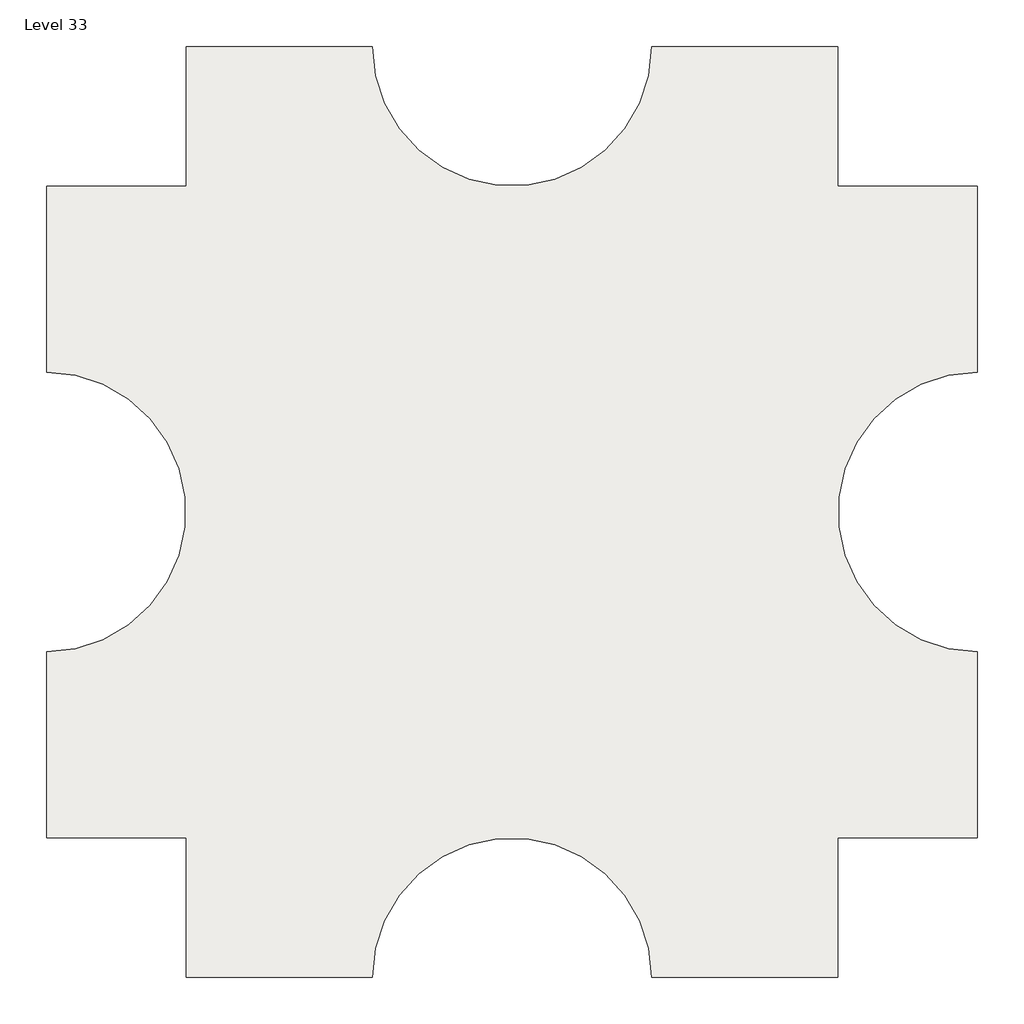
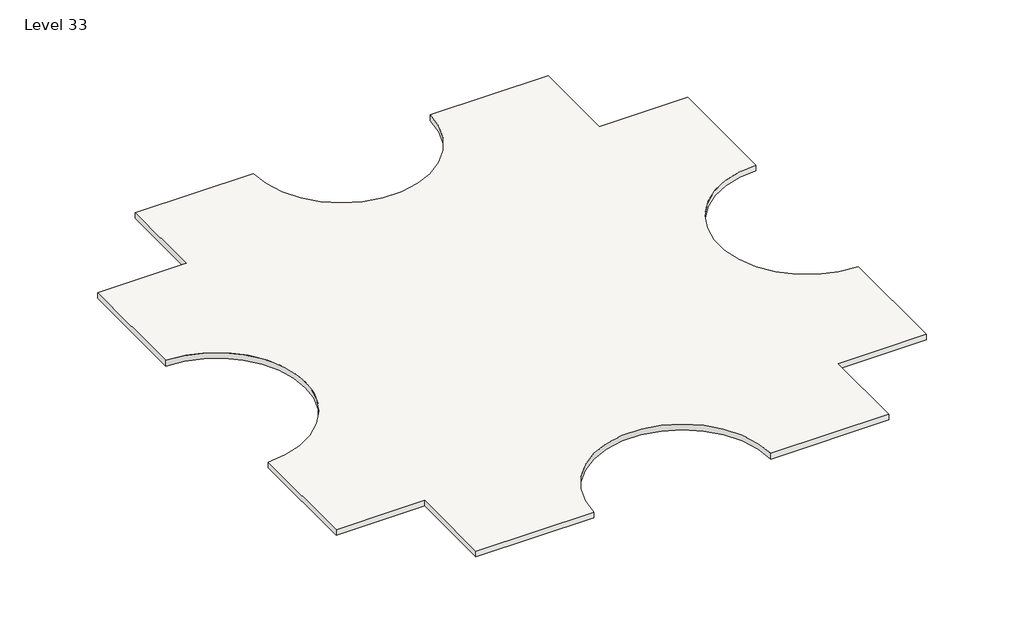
# One storey: 2 slabs.
"""IFC4 building model written with IfcOpenShell, lengths in millimetres."""

import ifcopenshell
import ifcopenshell.guid

model = None  # the IFC model being written
_history = None  # IfcOwnerHistory: only IFC2X3 demands one
_inside = {}  # id of a spatial element -> (the spatial element, [elements in it])
_under = {}  # id of a project, library or spatial element -> (it, [spatial elements below it])
_declared = {}  # id of a project -> (the project, [libraries it declares])
_typed = {}  # id of a type object -> (the type object, [elements of that type])
_made_of = {}  # id of a material, layer set ... -> (it, [elements and type objects made of it])


def new_model(schema):
    """Start an empty IFC model of exactly this schema.

    Asked for "IFC4X3", IfcOpenShell would pick the latest addendum, in which some entities
    have other attributes; the version numbers below select the first issue.
    IFC2X3 requires an IfcOwnerHistory on every rooted entity: one is made here for all.
    """
    global model, _history
    if schema == "IFC4X3":
        model = ifcopenshell.file(schema_version=(4, 3, 0, 0))
    else:
        model = ifcopenshell.file(schema=schema)
    _inside.clear()
    _under.clear()
    _declared.clear()
    _typed.clear()
    _made_of.clear()
    _history = None
    if model.schema == "IFC2X3":
        org = make("IfcOrganization", Name="unknown")
        user = make(
            "IfcPersonAndOrganization",
            ThePerson=make("IfcPerson", FamilyName="unknown"),
            TheOrganization=org,
        )
        app = make(
            "IfcApplication",
            ApplicationDeveloper=org,
            Version="unknown",
            ApplicationFullName="unknown",
            ApplicationIdentifier="unknown",
        )
        _history = make(
            "IfcOwnerHistory",
            OwningUser=user,
            OwningApplication=app,
            ChangeAction="ADDED",
            CreationDate=0,
        )
    return model


def make(cls, **values):
    """One entity of the class cls with the attributes given. An attribute that is None is left unset."""
    return model.create_entity(
        cls, **{name: value for name, value in values.items() if value is not None}
    )


def rooted(cls, **values):
    """An entity with a GlobalId (a new one), such as an element, a storey or a relation."""
    return make(cls, GlobalId=ifcopenshell.guid.new(), OwnerHistory=_history, **values)


def si_unit(unit_type, name, prefix=None):
    """IfcSIUnit, for example si_unit("LENGTHUNIT", "METRE", prefix="MILLI")."""
    return make("IfcSIUnit", UnitType=unit_type, Prefix=prefix, Name=name)


def assignment(units):
    """IfcUnitAssignment: the units of a project."""
    return None if units is None else make("IfcUnitAssignment", Units=units)


def point(xyz):
    """IfcCartesianPoint."""
    return None if xyz is None else make("IfcCartesianPoint", Coordinates=xyz)


def direction(xyz):
    """IfcDirection."""
    return None if xyz is None else make("IfcDirection", DirectionRatios=xyz)


def frame(location, z_axis=None, x_axis=None):
    """IfcAxis2Placement3D, a coordinate frame: its origin and axes. An axis left out is left unset."""
    return make(
        "IfcAxis2Placement3D",
        Location=point(location),
        Axis=direction(z_axis),
        RefDirection=direction(x_axis),
    )


def frame_2d(location, x_axis=None):
    """IfcAxis2Placement2D, a coordinate frame in the plane: its origin and x axis."""
    return make(
        "IfcAxis2Placement2D", Location=point(location), RefDirection=direction(x_axis)
    )


def origin():
    """The frame at (0, 0, 0) with its axes left unset."""
    return frame((0.0, 0.0, 0.0))


def place(relative_to, where):
    """IfcLocalPlacement: puts the frame where relative to a parent placement (None: the world)."""
    return make(
        "IfcLocalPlacement", PlacementRelTo=relative_to, RelativePlacement=where
    )


def context(
    kind, dimensions, precision=None, world=None, true_north=None, identifier=None
):
    """IfcGeometricRepresentationContext, for example the 3D "Model" context."""
    return make(
        "IfcGeometricRepresentationContext",
        ContextIdentifier=identifier,
        ContextType=kind,
        CoordinateSpaceDimension=dimensions,
        Precision=precision,
        WorldCoordinateSystem=world,
        TrueNorth=true_north,
    )


def project(units=None, contexts=None):
    """IfcProject with its units and contexts."""
    return rooted(
        "IfcProject",
        Name="project",
        RepresentationContexts=contexts,
        UnitsInContext=assignment(units),
    )


def spatial(cls, under=None, at=None, **own):
    """A site, building, storey or space (cls), placed at a placement, below another one or the project."""
    s = rooted(cls, ObjectPlacement=at, **own)
    if under is not None:
        _under.setdefault(under.id(), (under, []))[1].append(s)
    return s


def polyline(points):
    """IfcPolyline through the points."""
    return make("IfcPolyline", Points=[point(p) for p in points])


def circle_curve(where, radius):
    """IfcCircle in the frame where."""
    return make("IfcCircle", Position=where, Radius=radius)


def trimmed(basis, trim1, trim2, sense, master):
    """IfcTrimmedCurve: the piece of a basis curve between two trims."""
    return make(
        "IfcTrimmedCurve",
        BasisCurve=basis,
        Trim1=trim1,
        Trim2=trim2,
        SenseAgreement=sense,
        MasterRepresentation=master,
    )


def segment(curve, same_sense, transition):
    """IfcCompositeCurveSegment."""
    return make(
        "IfcCompositeCurveSegment",
        Transition=transition,
        SameSense=same_sense,
        ParentCurve=curve,
    )


def composite_curve(segments, self_intersect=None):
    """IfcCompositeCurve: segments joined end to end."""
    return make("IfcCompositeCurve", Segments=segments, SelfIntersect=self_intersect)


def outline(outer, holes=None, kind="AREA"):
    """IfcArbitraryClosedProfileDef: a profile drawn as a closed curve; with holes, ...WithVoids."""
    if holes is None:
        return make("IfcArbitraryClosedProfileDef", ProfileType=kind, OuterCurve=outer)
    return make(
        "IfcArbitraryProfileDefWithVoids",
        ProfileType=kind,
        OuterCurve=outer,
        InnerCurves=holes,
    )


def extrude(swept, where, along, depth):
    """IfcExtrudedAreaSolid: the profile swept, set in the frame where, extruded along a direction by depth."""
    return make(
        "IfcExtrudedAreaSolid",
        SweptArea=swept,
        Position=where,
        ExtrudedDirection=direction(along),
        Depth=depth,
    )


def shape(context_of_items, identifier, shape_type, items):
    """IfcShapeRepresentation: the items that make up one representation, for example the "Body"."""
    return make(
        "IfcShapeRepresentation",
        ContextOfItems=context_of_items,
        RepresentationIdentifier=identifier,
        RepresentationType=shape_type,
        Items=items,
    )


def made_of(thing, what):
    """Note that an element or type object is made of a material, layer set ...; save() writes the relation."""
    if what is not None:
        _made_of.setdefault(what.id(), (what, []))[1].append(thing)
    return thing


def element(
    cls,
    number,
    at=None,
    inside=None,
    cuts=None,
    type_object=None,
    material=None,
    context=None,
    identifier="Body",
    shape_type=None,
    held_by="IfcProductDefinitionShape",
    body=None,
    shapes=None,
    **own,
):
    """One element of the class cls, such as IfcWall. Its Tag is "e" and its number.

    at: its placement. inside: the storey or other place that contains it. cuts: it is an
    opening in that element (IfcRelVoidsElement). A single representation is given by context,
    identifier, shape_type and body (its items); several are given by shapes. held_by: the class
    of the entity that holds the representations. save() writes the other relations.
    """
    e = rooted(cls, Tag="e%d" % number, ObjectPlacement=at, **own)
    if body is not None:
        shapes = [shape(context, identifier, shape_type, body)]
    if shapes is not None:
        e.Representation = make(held_by, Representations=shapes)
    if inside is not None:
        _inside.setdefault(inside.id(), (inside, []))[1].append(e)
    if cuts is not None:
        rooted(
            "IfcRelVoidsElement", RelatingBuildingElement=cuts, RelatedOpeningElement=e
        )
    if type_object is not None:
        _typed.setdefault(type_object.id(), (type_object, []))[1].append(e)
    return made_of(e, material)


def aggregate(whole, parts):
    """IfcRelAggregates: a whole, such as a stair, and the parts it consists of."""
    return rooted("IfcRelAggregates", RelatingObject=whole, RelatedObjects=parts)


def save(model, path):
    """Write the relations noted so far, then the file.

    IfcRelAggregates (storeys below a building ...), IfcRelContainedInSpatialStructure (elements
    in a storey), IfcRelDefinesByType, IfcRelAssociatesMaterial and IfcRelDeclares: one each for
    every whole, place, type object, material and project.
    """
    for whole, parts in _under.values():
        aggregate(whole, parts)
    for where, things in _inside.values():
        rooted(
            "IfcRelContainedInSpatialStructure",
            RelatedElements=things,
            RelatingStructure=where,
        )
    for kind, things in _typed.values():
        rooted("IfcRelDefinesByType", RelatedObjects=things, RelatingType=kind)
    for what, things in _made_of.values():
        rooted("IfcRelAssociatesMaterial", RelatedObjects=things, RelatingMaterial=what)
    for by, libraries in _declared.values():
        rooted("IfcRelDeclares", RelatingContext=by, RelatedDefinitions=libraries)
    model.write(path)


model = new_model("IFC4")

# Units and contexts
model_context = context("Model", 3, world=origin())
ifc_project = project(units=[si_unit("LENGTHUNIT", "METRE", prefix="MILLI")], contexts=[model_context])

# Site, building, storey
site = spatial("IfcSite", under=ifc_project)
building = spatial("IfcBuilding", under=site)
storey = spatial("IfcBuildingStorey", under=building, Name="Level 33", Elevation=97536.0)

# Slabs
placement = place(None, origin())
element("IfcSlab", 1, ObjectType="Generic - 12\"", at=placement, inside=storey, context=model_context, shape_type="SweptSolid", body=[
    extrude(outline(composite_curve([segment(polyline([(-7150.3629456, 4479.6634547), (-7150.3629456, 9051.6634547), (-1054.3629456, 9051.6634547)]), True, "CONTINUOUS"), segment(trimmed(circle_curve(frame_2d((3517.6370544, 9051.6634547)), 4572.0), [point((-1054.3629456, 9051.6634547))], [point((8089.6370544, 9051.6634547))], True, "CARTESIAN"), True, "CONTINUOUS"), segment(polyline([(8089.6370544, 9051.6634547), (14185.6370544, 9051.6634547), (14185.6370544, 4479.6634547), (18757.6370544, 4479.6634547), (18757.6370544, -1616.3365453)]), True, "CONTINUOUS"), segment(trimmed(circle_curve(frame_2d((18757.6370544, -6188.3365453)), 4572.0), [point((18757.6370544, -1616.3365453))], [point((18757.6370544, -10760.3365453))], True, "CARTESIAN"), True, "CONTINUOUS"), segment(polyline([(18757.6370544, -10760.3365453), (18757.6370544, -16856.3365453), (14185.6370544, -16856.3365453), (14185.6370544, -21428.3365453), (8089.6370544, -21428.3365453)]), True, "CONTINUOUS"), segment(trimmed(circle_curve(frame_2d((3517.6370544, -21428.3365453)), 4572.0), [point((8089.6370544, -21428.3365453))], [point((-1054.3629456, -21428.3365453))], True, "CARTESIAN"), True, "CONTINUOUS"), segment(polyline([(-1054.3629456, -21428.3365453), (-7150.3629456, -21428.3365453), (-7150.3629456, -16856.3365453), (-11722.3629456, -16856.3365453), (-11722.3629456, -10760.3365453)]), True, "CONTINUOUS"), segment(trimmed(circle_curve(frame_2d((-11722.3629456, -6188.3365453)), 4572.0), [point((-11722.3629456, -10760.3365453))], [point((-11722.3629456, -1616.3365453))], True, "CARTESIAN"), True, "CONTINUOUS"), segment(polyline([(-11722.3629456, -1616.3365453), (-11722.3629456, 4479.6634547), (-7150.3629456, 4479.6634547)]), True, "CONTINUOUS")], self_intersect=False)), frame((0.0, 0.0, 97231.2), z_axis=(0.0, 0.0, 1.0), x_axis=(1.0, 0.0, 0.0)), (0.0, 0.0, 1.0), 304.8),
])
element("IfcSlab", 2, ObjectType="Generic - 12\"", at=placement, inside=storey, context=model_context, shape_type="SweptSolid", body=[
    extrude(outline(composite_curve([segment(polyline([(-7150.3629456, 4479.6634547), (-7150.3629456, 9051.6634547), (-1054.3629456, 9051.6634547)]), True, "CONTINUOUS"), segment(trimmed(circle_curve(frame_2d((3517.6370544, 9051.6634547)), 4572.0), [point((-1054.3629456, 9051.6634547))], [point((8089.6370544, 9051.6634547))], True, "CARTESIAN"), True, "CONTINUOUS"), segment(polyline([(8089.6370544, 9051.6634547), (14185.6370544, 9051.6634547), (14185.6370544, 4479.6634547), (18757.6370544, 4479.6634547), (18757.6370544, -1616.3365453)]), True, "CONTINUOUS"), segment(trimmed(circle_curve(frame_2d((18757.6370544, -6188.3365453)), 4572.0), [point((18757.6370544, -1616.3365453))], [point((18757.6370544, -10760.3365453))], True, "CARTESIAN"), True, "CONTINUOUS"), segment(polyline([(18757.6370544, -10760.3365453), (18757.6370544, -16856.3365453), (14185.6370544, -16856.3365453), (14185.6370544, -21428.3365453), (8089.6370544, -21428.3365453)]), True, "CONTINUOUS"), segment(trimmed(circle_curve(frame_2d((3517.6370544, -21428.3365453)), 4572.0), [point((8089.6370544, -21428.3365453))], [point((-1054.3629456, -21428.3365453))], True, "CARTESIAN"), True, "CONTINUOUS"), segment(polyline([(-1054.3629456, -21428.3365453), (-7150.3629456, -21428.3365453), (-7150.3629456, -16856.3365453), (-11722.3629456, -16856.3365453), (-11722.3629456, -10760.3365453)]), True, "CONTINUOUS"), segment(trimmed(circle_curve(frame_2d((-11722.3629456, -6188.3365453)), 4572.0), [point((-11722.3629456, -10760.3365453))], [point((-11722.3629456, -1616.3365453))], True, "CARTESIAN"), True, "CONTINUOUS"), segment(polyline([(-11722.3629456, -1616.3365453), (-11722.3629456, 4479.6634547), (-7150.3629456, 4479.6634547)]), True, "CONTINUOUS")], self_intersect=False)), frame((0.0, 0.0, 97231.2), z_axis=(0.0, 0.0, 1.0), x_axis=(1.0, 0.0, 0.0)), (0.0, 0.0, 1.0), 304.8),
])

save(model, "model.ifc")
